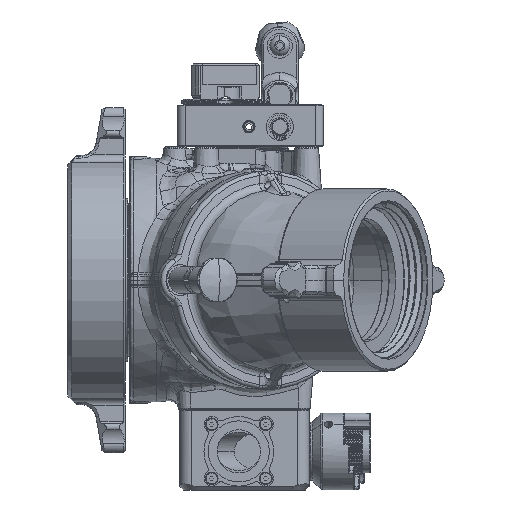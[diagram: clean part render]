
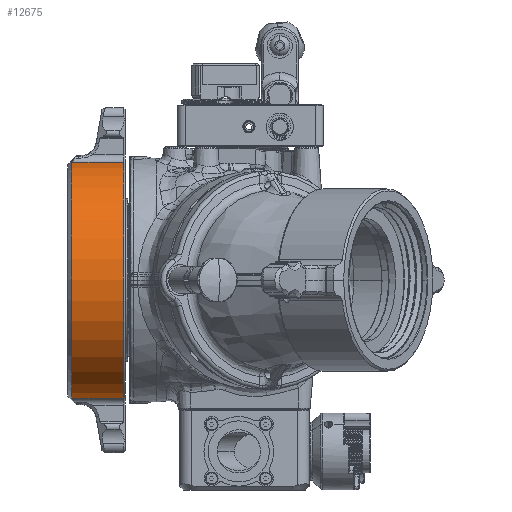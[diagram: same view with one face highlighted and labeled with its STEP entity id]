
A CAD part, front view. The second image highlights one B-rep face of the part: STEP entity #12675.
In plain terms, the highlighted cylindrical face has radius 98.425 mm (diameter 196.85 mm), a partial arc.
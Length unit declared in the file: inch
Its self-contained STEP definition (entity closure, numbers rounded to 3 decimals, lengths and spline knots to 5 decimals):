
#868 = VERTEX_POINT ( 'NONE', #259008 ) ;
#1353 = DIRECTION ( 'NONE',  ( -1., 0., 0. ) ) ;
#3988 = DIRECTION ( 'NONE',  ( 1., 0., 0. ) ) ;
#5157 = CARTESIAN_POINT ( 'NONE',  ( -4.983, -0.68106, 3.81468 ) ) ;
#12675 = ADVANCED_FACE ( 'NONE', ( #91270 ), #212662, .T. ) ;
#15436 = CARTESIAN_POINT ( 'NONE',  ( -3.3075, -0.68106, 3.81468 ) ) ;
#20082 = EDGE_LOOP ( 'NONE', ( #41097, #31284, #179432, #26899 ) ) ;
#20836 = EDGE_CURVE ( 'NONE', #868, #136906, #59352, .T. ) ;
#26899 = ORIENTED_EDGE ( 'NONE', *, *, #77176, .F. ) ;
#31284 = ORIENTED_EDGE ( 'NONE', *, *, #231086, .T. ) ;
#40950 = EDGE_CURVE ( 'NONE', #48301, #168125, #130992, .T. ) ;
#41093 = DIRECTION ( 'NONE',  ( -1., 0., 0. ) ) ;
#41097 = ORIENTED_EDGE ( 'NONE', *, *, #20836, .T. ) ;
#43385 = AXIS2_PLACEMENT_3D ( 'NONE', #104302, #41093, #146771 ) ;
#46527 = CARTESIAN_POINT ( 'NONE',  ( -5.158, -0.68106, -3.81468 ) ) ;
#48301 = VERTEX_POINT ( 'NONE', #5157 ) ;
#59352 = LINE ( 'NONE', #46527, #180775 ) ;
#77176 = EDGE_CURVE ( 'NONE', #868, #48301, #265627, .T. ) ;
#85374 = CARTESIAN_POINT ( 'NONE',  ( -5.158, 0., 0. ) ) ;
#89056 = CARTESIAN_POINT ( 'NONE',  ( -3.3075, 0., 0. ) ) ;
#91270 = FACE_OUTER_BOUND ( 'NONE', #20082, .T. ) ;
#104302 = CARTESIAN_POINT ( 'NONE',  ( -4.983, 0., 0. ) ) ;
#109896 = DIRECTION ( 'NONE',  ( 1., 0., 0. ) ) ;
#119827 = CIRCLE ( 'NONE', #123174, 3.875 ) ;
#123174 = AXIS2_PLACEMENT_3D ( 'NONE', #89056, #1353, #195567 ) ;
#127459 = VECTOR ( 'NONE', #3988, 39.37008 ) ;
#130992 = LINE ( 'NONE', #155890, #127459 ) ;
#136906 = VERTEX_POINT ( 'NONE', #267516 ) ;
#146771 = DIRECTION ( 'NONE',  ( 0., 0., -1. ) ) ;
#155890 = CARTESIAN_POINT ( 'NONE',  ( -5.158, -0.68106, 3.81468 ) ) ;
#168125 = VERTEX_POINT ( 'NONE', #15436 ) ;
#179432 = ORIENTED_EDGE ( 'NONE', *, *, #40950, .F. ) ;
#180164 = AXIS2_PLACEMENT_3D ( 'NONE', #85374, #109896, #195593 ) ;
#180775 = VECTOR ( 'NONE', #241652, 39.37008 ) ;
#195567 = DIRECTION ( 'NONE',  ( 0., 0., 1. ) ) ;
#195593 = DIRECTION ( 'NONE',  ( 0., 0., -1. ) ) ;
#212662 = CYLINDRICAL_SURFACE ( 'NONE', #180164, 3.875 ) ;
#231086 = EDGE_CURVE ( 'NONE', #136906, #168125, #119827, .T. ) ;
#241652 = DIRECTION ( 'NONE',  ( 1., 0., 0. ) ) ;
#259008 = CARTESIAN_POINT ( 'NONE',  ( -4.983, -0.68106, -3.81468 ) ) ;
#265627 = CIRCLE ( 'NONE', #43385, 3.875 ) ;
#267516 = CARTESIAN_POINT ( 'NONE',  ( -3.3075, -0.68106, -3.81468 ) ) ;
